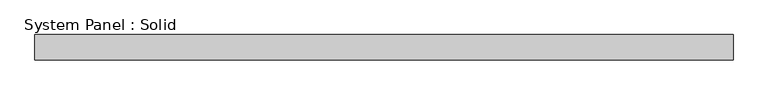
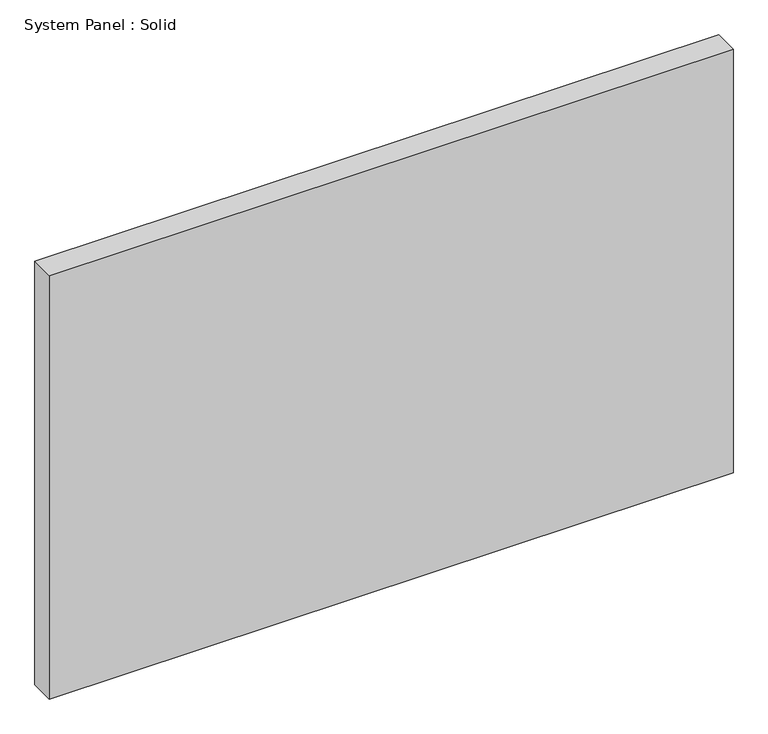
"""IFC4 building model written with IfcOpenShell, lengths in millimetres: plate geometry, System Panel : Solid."""

from ifc_helpers import new_model, si_unit, origin, origin_with_axes, place, context, project, spatial, polyline, outline, extrude, source, transform, mapped, element, save


def system_panel_solid_e25e2004(model_context):
    return source(origin(), model_context, "Body", "SweptSolid", [
        extrude(outline(polyline([(882.65, -19.05), (-882.65, -19.05), (-882.65, 44.45), (882.65, 44.45), (882.65, -19.05)])), origin_with_axes(), (0.0, 0.0, 1.0), 1155.7),
    ])


if __name__ == "__main__":
    model = new_model("IFC4")
    model_context = context("Model", 3, world=origin())
    ifc_project = project(units=[si_unit("LENGTHUNIT", "METRE", prefix="MILLI")], contexts=[model_context])
    site = spatial("IfcSite", under=ifc_project)
    building = spatial("IfcBuilding", under=site)
    placement = place(None, origin())
    system_panel_solid_shape = system_panel_solid_e25e2004(model_context)
    element("IfcPlate", 1, ObjectType="System Panel : Solid", at=placement, inside=building, context=model_context, shape_type="MappedRepresentation", body=[
        mapped(system_panel_solid_shape, transform((0.0, 0.0, 0.0), x_axis=(1.0, 0.0, 0.0), y_axis=(0.0, 1.0, 0.0), z_axis=(0.0, 0.0, 1.0))),
    ])
    save(model, "model.ifc")
